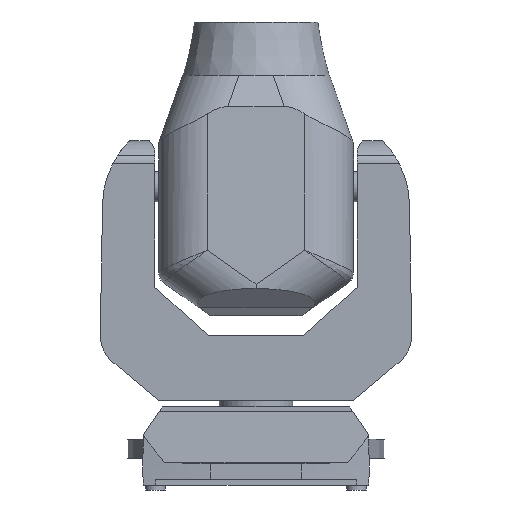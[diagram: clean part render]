
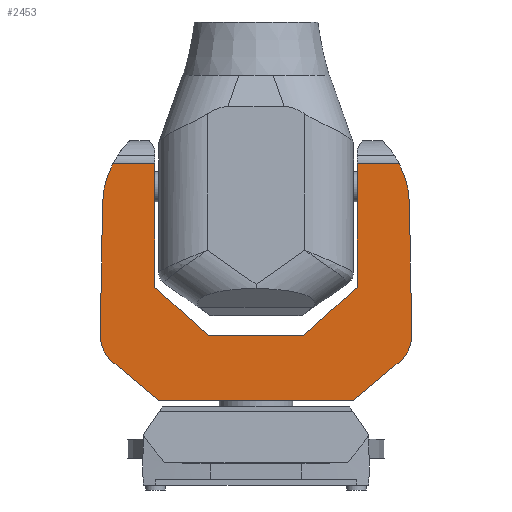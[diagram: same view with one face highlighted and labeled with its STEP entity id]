
A CAD part, left-side view. The second image highlights one B-rep face of the part: STEP entity #2453.
In plain terms, the highlighted planar face has unit normal (-1, 0, 0).
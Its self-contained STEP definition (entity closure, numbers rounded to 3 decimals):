
#114=PLANE('',#2700);
#322=LINE('',#3939,#520);
#323=LINE('',#3948,#521);
#327=LINE('',#4019,#525);
#328=LINE('',#4021,#526);
#329=LINE('',#4023,#527);
#330=LINE('',#4025,#528);
#331=LINE('',#4027,#529);
#332=LINE('',#4030,#530);
#333=LINE('',#4034,#531);
#334=LINE('',#4036,#532);
#335=LINE('',#4038,#533);
#336=LINE('',#4042,#534);
#520=VECTOR('',#3202,1000.);
#521=VECTOR('',#3205,1000.);
#525=VECTOR('',#3229,1000.);
#526=VECTOR('',#3230,1000.);
#527=VECTOR('',#3231,1000.);
#528=VECTOR('',#3232,1000.);
#529=VECTOR('',#3233,1000.);
#530=VECTOR('',#3236,1000.);
#531=VECTOR('',#3239,1000.);
#532=VECTOR('',#3240,1000.);
#533=VECTOR('',#3241,1000.);
#534=VECTOR('',#3244,1000.);
#963=ORIENTED_EDGE('',*,*,#1485,.T.);
#964=ORIENTED_EDGE('',*,*,#1501,.T.);
#965=ORIENTED_EDGE('',*,*,#1502,.T.);
#966=ORIENTED_EDGE('',*,*,#1503,.T.);
#967=ORIENTED_EDGE('',*,*,#1504,.T.);
#968=ORIENTED_EDGE('',*,*,#1505,.T.);
#969=ORIENTED_EDGE('',*,*,#1487,.T.);
#970=ORIENTED_EDGE('',*,*,#1506,.T.);
#971=ORIENTED_EDGE('',*,*,#1507,.T.);
#972=ORIENTED_EDGE('',*,*,#1508,.T.);
#973=ORIENTED_EDGE('',*,*,#1509,.T.);
#974=ORIENTED_EDGE('',*,*,#1510,.T.);
#975=ORIENTED_EDGE('',*,*,#1511,.T.);
#976=ORIENTED_EDGE('',*,*,#1512,.T.);
#977=ORIENTED_EDGE('',*,*,#1513,.T.);
#978=ORIENTED_EDGE('',*,*,#1514,.T.);
#1485=EDGE_CURVE('',#1790,#1789,#322,.T.);
#1487=EDGE_CURVE('',#1791,#1792,#323,.T.);
#1501=EDGE_CURVE('',#1789,#1803,#327,.T.);
#1502=EDGE_CURVE('',#1803,#1804,#328,.T.);
#1503=EDGE_CURVE('',#1804,#1805,#329,.T.);
#1504=EDGE_CURVE('',#1805,#1806,#330,.T.);
#1505=EDGE_CURVE('',#1806,#1791,#331,.T.);
#1506=EDGE_CURVE('',#1792,#1807,#1953,.T.);
#1507=EDGE_CURVE('',#1807,#1808,#332,.T.);
#1508=EDGE_CURVE('',#1808,#1809,#1954,.T.);
#1509=EDGE_CURVE('',#1809,#1810,#333,.T.);
#1510=EDGE_CURVE('',#1810,#1811,#334,.T.);
#1511=EDGE_CURVE('',#1811,#1812,#335,.T.);
#1512=EDGE_CURVE('',#1812,#1813,#1955,.T.);
#1513=EDGE_CURVE('',#1813,#1814,#336,.T.);
#1514=EDGE_CURVE('',#1814,#1790,#1956,.T.);
#1789=VERTEX_POINT('',#3938);
#1790=VERTEX_POINT('',#3940);
#1791=VERTEX_POINT('',#3949);
#1792=VERTEX_POINT('',#3950);
#1803=VERTEX_POINT('',#4020);
#1804=VERTEX_POINT('',#4022);
#1805=VERTEX_POINT('',#4024);
#1806=VERTEX_POINT('',#4026);
#1807=VERTEX_POINT('',#4029);
#1808=VERTEX_POINT('',#4031);
#1809=VERTEX_POINT('',#4033);
#1810=VERTEX_POINT('',#4035);
#1811=VERTEX_POINT('',#4037);
#1812=VERTEX_POINT('',#4039);
#1813=VERTEX_POINT('',#4041);
#1814=VERTEX_POINT('',#4043);
#1953=CIRCLE('',#2701,146.551);
#1954=CIRCLE('',#2702,61.01);
#1955=CIRCLE('',#2703,61.01);
#1956=CIRCLE('',#2704,146.551);
#2071=EDGE_LOOP('',(#963,#964,#965,#966,#967,#968,#969,#970,#971,#972,#973,
#974,#975,#976,#977,#978));
#2245=FACE_BOUND('',#2071,.T.);
#2453=ADVANCED_FACE('',(#2245),#114,.T.);
#2700=AXIS2_PLACEMENT_3D('',#4018,#3227,#3228);
#2701=AXIS2_PLACEMENT_3D('',#4028,#3234,#3235);
#2702=AXIS2_PLACEMENT_3D('',#4032,#3237,#3238);
#2703=AXIS2_PLACEMENT_3D('',#4040,#3242,#3243);
#2704=AXIS2_PLACEMENT_3D('',#4044,#3245,#3246);
#3202=DIRECTION('',(0.,1.,0.));
#3205=DIRECTION('',(0.,1.,0.));
#3227=DIRECTION('',(-1.,0.,0.));
#3228=DIRECTION('',(0.,0.,1.));
#3229=DIRECTION('',(0.,0.,-1.));
#3230=DIRECTION('',(0.,0.741,-0.672));
#3231=DIRECTION('',(0.,1.,0.));
#3232=DIRECTION('',(0.,0.741,0.672));
#3233=DIRECTION('',(0.,0.,1.));
#3234=DIRECTION('',(-1.,0.,0.));
#3235=DIRECTION('',(0.,0.,1.));
#3236=DIRECTION('',(0.,0.017,-1.));
#3237=DIRECTION('',(-1.,0.,0.));
#3238=DIRECTION('',(0.,0.,1.));
#3239=DIRECTION('',(0.,-0.764,-0.645));
#3240=DIRECTION('',(0.,-1.,0.));
#3241=DIRECTION('',(0.,-0.764,0.645));
#3242=DIRECTION('',(-1.,0.,0.));
#3243=DIRECTION('',(0.,0.,1.));
#3244=DIRECTION('',(0.,0.017,1.));
#3245=DIRECTION('',(-1.,0.,0.));
#3246=DIRECTION('',(0.,0.,1.));
#3938=CARTESIAN_POINT('',(-62.056,-164.534,498.116));
#3939=CARTESIAN_POINT('',(-62.056,-297.658,498.116));
#3940=CARTESIAN_POINT('',(-62.056,-233.059,498.116));
#3948=CARTESIAN_POINT('',(-62.056,-297.658,498.116));
#3949=CARTESIAN_POINT('',(-62.056,164.534,498.116));
#3950=CARTESIAN_POINT('',(-62.056,233.059,498.116));
#4018=CARTESIAN_POINT('',(-62.056,-297.658,498.116));
#4019=CARTESIAN_POINT('',(-62.056,-164.534,498.116));
#4020=CARTESIAN_POINT('',(-62.056,-164.534,297.553));
#4021=CARTESIAN_POINT('',(-62.056,-337.396,454.291));
#4022=CARTESIAN_POINT('',(-62.056,-77.695,218.815));
#4023=CARTESIAN_POINT('',(-62.056,-297.658,218.815));
#4024=CARTESIAN_POINT('',(-62.056,77.695,218.815));
#4025=CARTESIAN_POINT('',(-62.056,10.683,158.054));
#4026=CARTESIAN_POINT('',(-62.056,164.534,297.553));
#4027=CARTESIAN_POINT('',(-62.056,164.534,498.116));
#4028=CARTESIAN_POINT('',(-62.056,103.109,430.366));
#4029=CARTESIAN_POINT('',(-62.056,249.637,432.925));
#4030=CARTESIAN_POINT('',(-62.056,248.332,507.651));
#4031=CARTESIAN_POINT('',(-62.056,253.337,221.066));
#4032=CARTESIAN_POINT('',(-62.056,192.336,220.001));
#4033=CARTESIAN_POINT('',(-62.056,239.185,180.918));
#4034=CARTESIAN_POINT('',(-62.056,82.189,48.333));
#4035=CARTESIAN_POINT('',(-62.056,159.15,113.328));
#4036=CARTESIAN_POINT('',(-62.056,-297.658,113.328));
#4037=CARTESIAN_POINT('',(-62.056,-159.15,113.328));
#4038=CARTESIAN_POINT('',(-62.056,-429.677,341.791));
#4039=CARTESIAN_POINT('',(-62.056,-239.185,180.918));
#4040=CARTESIAN_POINT('',(-62.056,-192.336,220.001));
#4041=CARTESIAN_POINT('',(-62.056,-253.337,221.066));
#4042=CARTESIAN_POINT('',(-62.056,-248.514,497.258));
#4043=CARTESIAN_POINT('',(-62.056,-249.637,432.925));
#4044=CARTESIAN_POINT('',(-62.056,-103.109,430.366));
